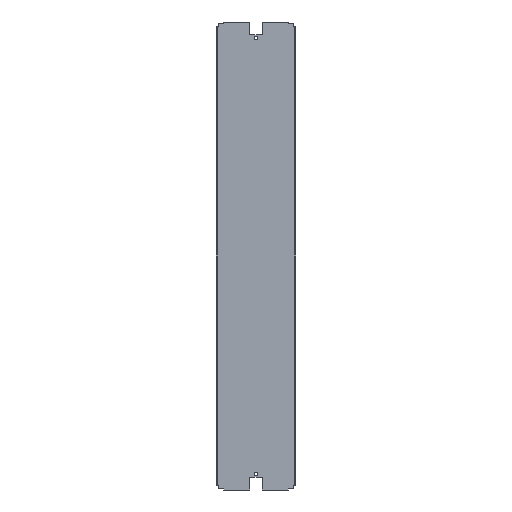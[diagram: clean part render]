
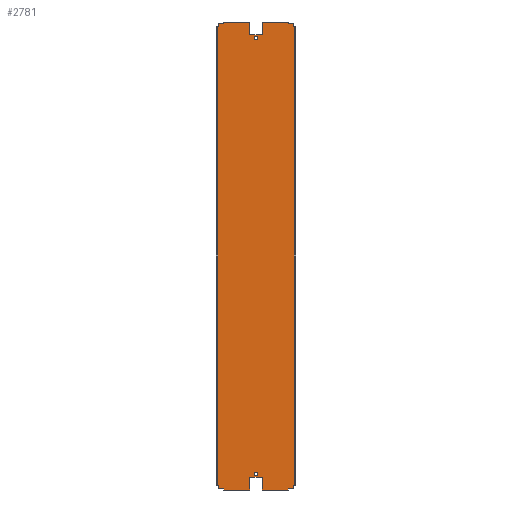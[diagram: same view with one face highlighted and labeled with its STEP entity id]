
A CAD part, front view. The second image highlights one B-rep face of the part: STEP entity #2781.
In plain terms, the highlighted planar face has unit normal (0, -1, 0).
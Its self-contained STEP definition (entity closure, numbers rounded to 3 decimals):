
#306=CARTESIAN_POINT(' ',(0.,-2.,328.25));
#307=VERTEX_POINT(' ',#306);
#321=CARTESIAN_POINT(' ',(0.,-2.,325.5));
#326=DIRECTION(' ',(0.,-1.,0.));
#331=DIRECTION(' ',(0.,0.,1.));
#336=AXIS2_PLACEMENT_3D(' ',#321,#326,#331);
#341=CIRCLE('',#336,2.75);
#346=CARTESIAN_POINT(' ',(0.,-2.,322.75));
#347=VERTEX_POINT(' ',#346);
#351=EDGE_CURVE(' ',#307,#347,#341,.T.);
#1606=CARTESIAN_POINT(' ',(0.,-2.,325.5));
#1611=DIRECTION(' ',(-0.,-1.,0.));
#1616=DIRECTION(' ',(0.,0.,-1.));
#1621=AXIS2_PLACEMENT_3D(' ',#1606,#1611,#1616);
#1626=CIRCLE('',#1621,2.75);
#1631=EDGE_CURVE(' ',#347,#307,#1626,.T.);
#1656=DIRECTION(' ',(-0.,-1.,-0.));
#1661=CARTESIAN_POINT(' ',(-56.9,-2.,-349.5));
#1666=DIRECTION(' ',(1.,0.,-0.));
#1671=AXIS2_PLACEMENT_3D(' ',#1661,#1656,#1666);
#1676=PLANE('NONE',#1671);
#1681=CARTESIAN_POINT(' ',(9.,-2.,330.5));
#1686=DIRECTION(' ',(0.,0.,1.));
#1691=VECTOR(' ',#1686,1.);
#1696=LINE('',#1681,#1691);
#1701=CARTESIAN_POINT(' ',(9.,-2.,330.5));
#1702=VERTEX_POINT(' ',#1701);
#1706=CARTESIAN_POINT(' ',(9.,-2.,349.5));
#1707=VERTEX_POINT(' ',#1706);
#1711=EDGE_CURVE(' ',#1702,#1707,#1696,.T.);
#1716=ORIENTED_EDGE(' ',*,*,#1711,.F.);
#1721=CARTESIAN_POINT(' ',(-9.,-2.,330.5));
#1726=DIRECTION(' ',(1.,0.,0.));
#1731=VECTOR(' ',#1726,1.);
#1736=LINE('',#1721,#1731);
#1741=CARTESIAN_POINT(' ',(-9.,-2.,330.5));
#1742=VERTEX_POINT(' ',#1741);
#1746=EDGE_CURVE(' ',#1742,#1702,#1736,.T.);
#1751=ORIENTED_EDGE(' ',*,*,#1746,.F.);
#1756=CARTESIAN_POINT(' ',(-9.,-2.,349.5));
#1761=DIRECTION(' ',(0.,0.,-1.));
#1766=VECTOR(' ',#1761,1.);
#1771=LINE('',#1756,#1766);
#1776=CARTESIAN_POINT(' ',(-9.,-2.,349.5));
#1777=VERTEX_POINT(' ',#1776);
#1781=EDGE_CURVE(' ',#1777,#1742,#1771,.T.);
#1786=ORIENTED_EDGE(' ',*,*,#1781,.F.);
#1791=CARTESIAN_POINT(' ',(-48.5,-2.,349.5));
#1796=DIRECTION(' ',(1.,0.,0.));
#1801=VECTOR(' ',#1796,1.);
#1806=LINE('',#1791,#1801);
#1811=CARTESIAN_POINT(' ',(-48.5,-2.,349.5));
#1812=VERTEX_POINT(' ',#1811);
#1816=EDGE_CURVE(' ',#1812,#1777,#1806,.T.);
#1821=ORIENTED_EDGE(' ',*,*,#1816,.F.);
#1826=CARTESIAN_POINT(' ',(-48.5,-2.,349.5));
#1831=DIRECTION(' ',(0.,0.,-1.));
#1836=VECTOR(' ',#1831,1.);
#1841=LINE('',#1826,#1836);
#1846=CARTESIAN_POINT(' ',(-48.5,-2.,347.5));
#1847=VERTEX_POINT(' ',#1846);
#1851=EDGE_CURVE(' ',#1812,#1847,#1841,.T.);
#1856=ORIENTED_EDGE(' ',*,*,#1851,.T.);
#1861=CARTESIAN_POINT(' ',(-48.5,-2.,347.5));
#1866=DIRECTION(' ',(-1.,0.,0.));
#1871=VECTOR(' ',#1866,1.);
#1876=LINE('',#1861,#1871);
#1881=CARTESIAN_POINT(' ',(-56.5,-2.,347.5));
#1882=VERTEX_POINT(' ',#1881);
#1886=EDGE_CURVE(' ',#1847,#1882,#1876,.T.);
#1891=ORIENTED_EDGE(' ',*,*,#1886,.T.);
#1896=CARTESIAN_POINT(' ',(-56.5,-2.,347.5));
#1901=DIRECTION(' ',(0.,0.,-1.));
#1906=VECTOR(' ',#1901,1.);
#1911=LINE('',#1896,#1906);
#1916=CARTESIAN_POINT(' ',(-56.5,-2.,342.5));
#1917=VERTEX_POINT(' ',#1916);
#1921=EDGE_CURVE(' ',#1882,#1917,#1911,.T.);
#1926=ORIENTED_EDGE(' ',*,*,#1921,.T.);
#1931=CARTESIAN_POINT(' ',(-56.5,-2.,342.5));
#1936=DIRECTION(' ',(-1.,0.,0.));
#1941=VECTOR(' ',#1936,1.);
#1946=LINE('',#1931,#1941);
#1951=CARTESIAN_POINT(' ',(-56.9,-2.,342.5));
#1952=VERTEX_POINT(' ',#1951);
#1956=EDGE_CURVE(' ',#1917,#1952,#1946,.T.);
#1961=ORIENTED_EDGE(' ',*,*,#1956,.T.);
#1966=CARTESIAN_POINT(' ',(-56.9,-2.,-342.5));
#1971=DIRECTION(' ',(0.,0.,1.));
#1976=VECTOR(' ',#1971,1.);
#1981=LINE('',#1966,#1976);
#1986=CARTESIAN_POINT(' ',(-56.9,-2.,-342.5));
#1987=VERTEX_POINT(' ',#1986);
#1991=EDGE_CURVE(' ',#1987,#1952,#1981,.T.);
#1996=ORIENTED_EDGE(' ',*,*,#1991,.F.);
#2001=CARTESIAN_POINT(' ',(-56.9,-2.,-342.5));
#2006=DIRECTION(' ',(1.,0.,0.));
#2011=VECTOR(' ',#2006,1.);
#2016=LINE('',#2001,#2011);
#2021=CARTESIAN_POINT(' ',(-56.5,-2.,-342.5));
#2022=VERTEX_POINT(' ',#2021);
#2026=EDGE_CURVE(' ',#1987,#2022,#2016,.T.);
#2031=ORIENTED_EDGE(' ',*,*,#2026,.T.);
#2036=CARTESIAN_POINT(' ',(-56.5,-2.,-342.5));
#2041=DIRECTION(' ',(0.,0.,-1.));
#2046=VECTOR(' ',#2041,1.);
#2051=LINE('',#2036,#2046);
#2056=CARTESIAN_POINT(' ',(-56.5,-2.,-347.5));
#2057=VERTEX_POINT(' ',#2056);
#2061=EDGE_CURVE(' ',#2022,#2057,#2051,.T.);
#2066=ORIENTED_EDGE(' ',*,*,#2061,.T.);
#2071=CARTESIAN_POINT(' ',(-56.5,-2.,-347.5));
#2076=DIRECTION(' ',(1.,0.,0.));
#2081=VECTOR(' ',#2076,1.);
#2086=LINE('',#2071,#2081);
#2091=CARTESIAN_POINT(' ',(-48.5,-2.,-347.5));
#2092=VERTEX_POINT(' ',#2091);
#2096=EDGE_CURVE(' ',#2057,#2092,#2086,.T.);
#2101=ORIENTED_EDGE(' ',*,*,#2096,.T.);
#2106=CARTESIAN_POINT(' ',(-48.5,-2.,-347.5));
#2111=DIRECTION(' ',(0.,0.,-1.));
#2116=VECTOR(' ',#2111,1.);
#2121=LINE('',#2106,#2116);
#2126=CARTESIAN_POINT(' ',(-48.5,-2.,-349.5));
#2127=VERTEX_POINT(' ',#2126);
#2131=EDGE_CURVE(' ',#2092,#2127,#2121,.T.);
#2136=ORIENTED_EDGE(' ',*,*,#2131,.T.);
#2141=CARTESIAN_POINT(' ',(-48.5,-2.,-349.5));
#2146=DIRECTION(' ',(1.,0.,0.));
#2151=VECTOR(' ',#2146,1.);
#2156=LINE('',#2141,#2151);
#2161=CARTESIAN_POINT(' ',(-9.,-2.,-349.5));
#2162=VERTEX_POINT(' ',#2161);
#2166=EDGE_CURVE(' ',#2127,#2162,#2156,.T.);
#2171=ORIENTED_EDGE(' ',*,*,#2166,.T.);
#2176=CARTESIAN_POINT(' ',(-9.,-2.,-330.5));
#2181=DIRECTION(' ',(0.,0.,-1.));
#2186=VECTOR(' ',#2181,1.);
#2191=LINE('',#2176,#2186);
#2196=CARTESIAN_POINT(' ',(-9.,-2.,-330.5));
#2197=VERTEX_POINT(' ',#2196);
#2201=EDGE_CURVE(' ',#2197,#2162,#2191,.T.);
#2206=ORIENTED_EDGE(' ',*,*,#2201,.F.);
#2211=CARTESIAN_POINT(' ',(9.,-2.,-330.5));
#2216=DIRECTION(' ',(-1.,0.,0.));
#2221=VECTOR(' ',#2216,1.);
#2226=LINE('',#2211,#2221);
#2231=CARTESIAN_POINT(' ',(9.,-2.,-330.5));
#2232=VERTEX_POINT(' ',#2231);
#2236=EDGE_CURVE(' ',#2232,#2197,#2226,.T.);
#2241=ORIENTED_EDGE(' ',*,*,#2236,.F.);
#2246=CARTESIAN_POINT(' ',(9.,-2.,-349.5));
#2251=DIRECTION(' ',(0.,0.,1.));
#2256=VECTOR(' ',#2251,1.);
#2261=LINE('',#2246,#2256);
#2266=CARTESIAN_POINT(' ',(9.,-2.,-349.5));
#2267=VERTEX_POINT(' ',#2266);
#2271=EDGE_CURVE(' ',#2267,#2232,#2261,.T.);
#2276=ORIENTED_EDGE(' ',*,*,#2271,.F.);
#2281=CARTESIAN_POINT(' ',(9.,-2.,-349.5));
#2286=DIRECTION(' ',(1.,0.,0.));
#2291=VECTOR(' ',#2286,1.);
#2296=LINE('',#2281,#2291);
#2301=CARTESIAN_POINT(' ',(48.5,-2.,-349.5));
#2302=VERTEX_POINT(' ',#2301);
#2306=EDGE_CURVE(' ',#2267,#2302,#2296,.T.);
#2311=ORIENTED_EDGE(' ',*,*,#2306,.T.);
#2316=CARTESIAN_POINT(' ',(48.5,-2.,-347.5));
#2321=DIRECTION(' ',(0.,0.,-1.));
#2326=VECTOR(' ',#2321,1.);
#2331=LINE('',#2316,#2326);
#2336=CARTESIAN_POINT(' ',(48.5,-2.,-347.5));
#2337=VERTEX_POINT(' ',#2336);
#2341=EDGE_CURVE(' ',#2337,#2302,#2331,.T.);
#2346=ORIENTED_EDGE(' ',*,*,#2341,.F.);
#2351=CARTESIAN_POINT(' ',(56.5,-2.,-347.5));
#2356=DIRECTION(' ',(-1.,0.,0.));
#2361=VECTOR(' ',#2356,1.);
#2366=LINE('',#2351,#2361);
#2371=CARTESIAN_POINT(' ',(56.5,-2.,-347.5));
#2372=VERTEX_POINT(' ',#2371);
#2376=EDGE_CURVE(' ',#2372,#2337,#2366,.T.);
#2381=ORIENTED_EDGE(' ',*,*,#2376,.F.);
#2386=CARTESIAN_POINT(' ',(56.5,-2.,-342.5));
#2391=DIRECTION(' ',(0.,0.,-1.));
#2396=VECTOR(' ',#2391,1.);
#2401=LINE('',#2386,#2396);
#2406=CARTESIAN_POINT(' ',(56.5,-2.,-342.5));
#2407=VERTEX_POINT(' ',#2406);
#2411=EDGE_CURVE(' ',#2407,#2372,#2401,.T.);
#2416=ORIENTED_EDGE(' ',*,*,#2411,.F.);
#2421=CARTESIAN_POINT(' ',(56.9,-2.,-342.5));
#2426=DIRECTION(' ',(-1.,0.,0.));
#2431=VECTOR(' ',#2426,1.);
#2436=LINE('',#2421,#2431);
#2441=CARTESIAN_POINT(' ',(56.9,-2.,-342.5));
#2442=VERTEX_POINT(' ',#2441);
#2446=EDGE_CURVE(' ',#2442,#2407,#2436,.T.);
#2451=ORIENTED_EDGE(' ',*,*,#2446,.F.);
#2456=CARTESIAN_POINT(' ',(56.9,-2.,342.5));
#2461=DIRECTION(' ',(0.,0.,-1.));
#2466=VECTOR(' ',#2461,1.);
#2471=LINE('',#2456,#2466);
#2476=CARTESIAN_POINT(' ',(56.9,-2.,342.5));
#2477=VERTEX_POINT(' ',#2476);
#2481=EDGE_CURVE(' ',#2477,#2442,#2471,.T.);
#2486=ORIENTED_EDGE(' ',*,*,#2481,.F.);
#2491=CARTESIAN_POINT(' ',(56.5,-2.,342.5));
#2496=DIRECTION(' ',(1.,0.,0.));
#2501=VECTOR(' ',#2496,1.);
#2506=LINE('',#2491,#2501);
#2511=CARTESIAN_POINT(' ',(56.5,-2.,342.5));
#2512=VERTEX_POINT(' ',#2511);
#2516=EDGE_CURVE(' ',#2512,#2477,#2506,.T.);
#2521=ORIENTED_EDGE(' ',*,*,#2516,.F.);
#2526=CARTESIAN_POINT(' ',(56.5,-2.,347.5));
#2531=DIRECTION(' ',(0.,0.,-1.));
#2536=VECTOR(' ',#2531,1.);
#2541=LINE('',#2526,#2536);
#2546=CARTESIAN_POINT(' ',(56.5,-2.,347.5));
#2547=VERTEX_POINT(' ',#2546);
#2551=EDGE_CURVE(' ',#2547,#2512,#2541,.T.);
#2556=ORIENTED_EDGE(' ',*,*,#2551,.F.);
#2561=CARTESIAN_POINT(' ',(48.5,-2.,347.5));
#2566=DIRECTION(' ',(1.,0.,0.));
#2571=VECTOR(' ',#2566,1.);
#2576=LINE('',#2561,#2571);
#2581=CARTESIAN_POINT(' ',(48.5,-2.,347.5));
#2582=VERTEX_POINT(' ',#2581);
#2586=EDGE_CURVE(' ',#2582,#2547,#2576,.T.);
#2591=ORIENTED_EDGE(' ',*,*,#2586,.F.);
#2596=CARTESIAN_POINT(' ',(48.5,-2.,349.5));
#2601=DIRECTION(' ',(0.,0.,-1.));
#2606=VECTOR(' ',#2601,1.);
#2611=LINE('',#2596,#2606);
#2616=CARTESIAN_POINT(' ',(48.5,-2.,349.5));
#2617=VERTEX_POINT(' ',#2616);
#2621=EDGE_CURVE(' ',#2617,#2582,#2611,.T.);
#2626=ORIENTED_EDGE(' ',*,*,#2621,.F.);
#2631=CARTESIAN_POINT(' ',(9.,-2.,349.5));
#2636=DIRECTION(' ',(1.,0.,0.));
#2641=VECTOR(' ',#2636,1.);
#2646=LINE('',#2631,#2641);
#2651=EDGE_CURVE(' ',#1707,#2617,#2646,.T.);
#2656=ORIENTED_EDGE(' ',*,*,#2651,.F.);
#2661=EDGE_LOOP(' ',(#1716,#1751,#1786,#1821,#1856,#1891,#1926,#1961,#1996,#2031,#2066,#2101,#2136,#2171,#2206,#2241,#2276,#2311,#2346,#2381,#2416,#2451,#2486,#2521,#2556,#2591,#2626,#2656));
#2666=FACE_OUTER_BOUND(' ',#2661,.T.);
#2671=ORIENTED_EDGE(' ',*,*,#1631,.F.);
#2676=ORIENTED_EDGE(' ',*,*,#351,.F.);
#2681=EDGE_LOOP(' ',(#2671,#2676));
#2686=FACE_BOUND(' ',#2681,.T.);
#2691=CARTESIAN_POINT(' ',(0.,-2.,-325.5));
#2696=DIRECTION(' ',(-0.,-1.,0.));
#2701=DIRECTION(' ',(0.,0.,-1.));
#2706=AXIS2_PLACEMENT_3D(' ',#2691,#2696,#2701);
#2711=CIRCLE('',#2706,2.75);
#2716=CARTESIAN_POINT(' ',(0.,-2.,-328.25));
#2717=VERTEX_POINT(' ',#2716);
#2721=CARTESIAN_POINT(' ',(0.,-2.,-322.75));
#2722=VERTEX_POINT(' ',#2721);
#2726=EDGE_CURVE(' ',#2717,#2722,#2711,.T.);
#2731=ORIENTED_EDGE(' ',*,*,#2726,.F.);
#2736=CARTESIAN_POINT(' ',(0.,-2.,-325.5));
#2741=DIRECTION(' ',(0.,-1.,0.));
#2746=DIRECTION(' ',(0.,0.,1.));
#2751=AXIS2_PLACEMENT_3D(' ',#2736,#2741,#2746);
#2756=CIRCLE('',#2751,2.75);
#2761=EDGE_CURVE(' ',#2722,#2717,#2756,.T.);
#2766=ORIENTED_EDGE(' ',*,*,#2761,.F.);
#2771=EDGE_LOOP(' ',(#2731,#2766));
#2776=FACE_BOUND(' ',#2771,.T.);
#2781=ADVANCED_FACE('NONE',(#2666,#2686,#2776),#1676,.T.);
